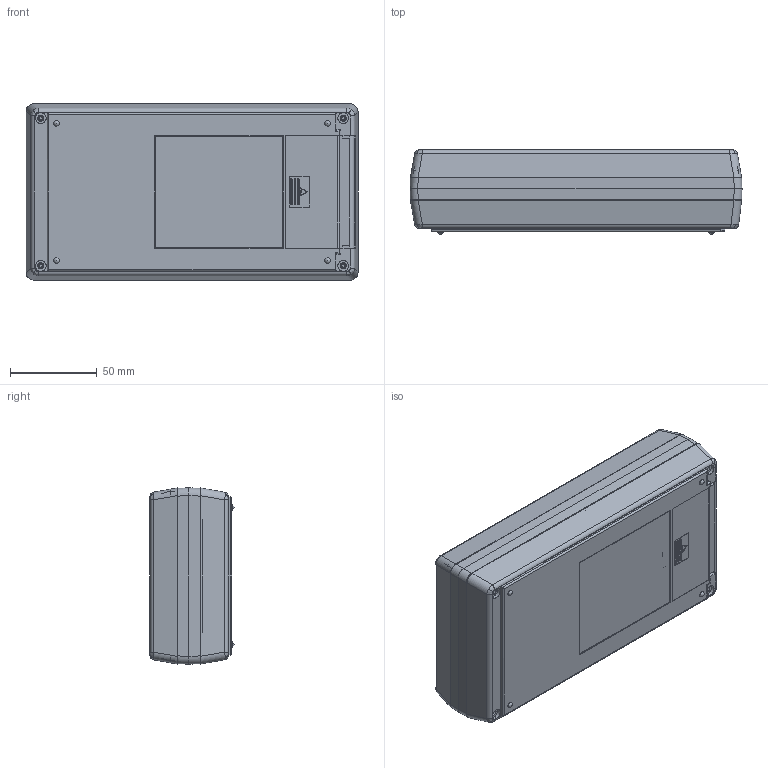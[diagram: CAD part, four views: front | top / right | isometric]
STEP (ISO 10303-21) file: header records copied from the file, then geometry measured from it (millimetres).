
FILE_DESCRIPTION (( 'STEP AP214' ), '1' );
FILE_NAME ('101-42-9V-E-R.STEP', '2019-12-01T01:03:57', ( 'Rudy' ), ( '' ), 'SwSTEP 2.0', 'SolidWorks 2014', '' );
FILE_SCHEMA (( 'AUTOMOTIVE_DESIGN' ));
Length unit declared in the file: millimetre
Products named in the file (5): 9Vdoor; 100-06 EXPANDER; 100-04-LCD Top; 100-02 BOT-9V; 101-42-9V-E-R
Assembly tree (4 placements, depth 2):
  101-42-9V-E-R
    100-02 BOT-9V
    100-04-LCD Top
    100-06 EXPANDER
    9Vdoor
Bounding box: 191 x 48.36 x 101.4 mm (x, y, z)
Volume: 136743 mm3; surface area: 148424.4 mm2
Topology: 4 solids, 4 shells, 828 faces, 2168 edges, 1350 vertices
Faces by surface type: plane 447, cylinder 275, bspline 44, cone 42, torus 12, sphere 8
Entity records: 26878 total; most frequent: CARTESIAN_POINT 7248, ORIENTED_EDGE 4256, DIRECTION 3775, EDGE_CURVE 2128, VECTOR 1375, LINE 1375, VERTEX_POINT 1342, AXIS2_PLACEMENT_3D 1200
